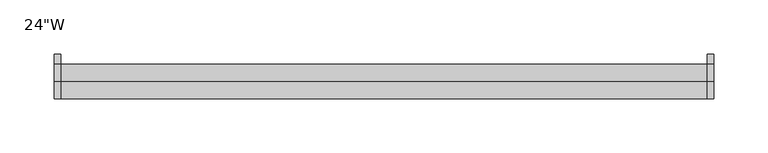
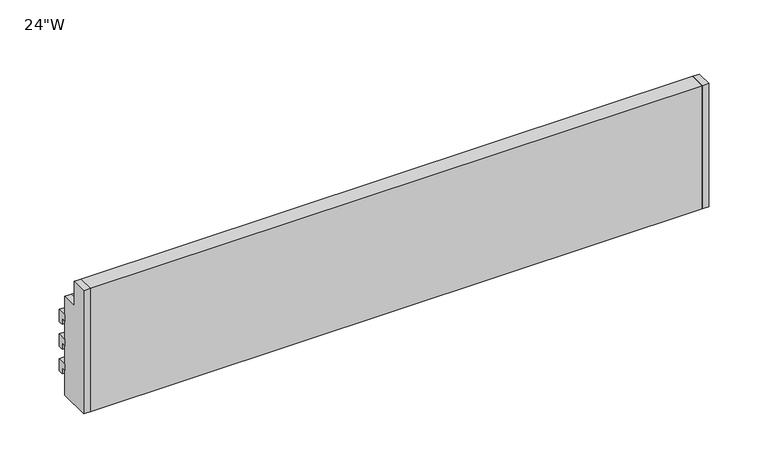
"""IFC4 building model written with IfcOpenShell, lengths in millimetres: furniture geometry."""

from ifc_helpers import new_model, si_unit, frame, origin, place, context, project, spatial, polyline, outline, extrude, source, transform, mapped, element, save


def furniture_c8dc60de(model_context):
    return source(origin(), model_context, "Body", "SweptSolid", [
        extrude(outline(polyline([(25.4, 742.95), (25.4, 730.25), (20.6375, 730.25), (20.6375, 736.6), (15.875, 736.6), (15.875, 742.95), (25.4, 742.95)])), frame((-304.8, 0.0, 0.0), z_axis=(1.0, 0.0, 0.0), x_axis=(0.0, 1.0, 0.0)), (0.0, 0.0, 1.0), 6.35),
        extrude(outline(polyline([(25.4, 717.55), (25.4, 704.85), (20.6375, 704.85), (20.6375, 711.2), (15.875, 711.2), (15.875, 717.55), (25.4, 717.55)])), frame((-304.8, 0.0, 0.0), z_axis=(1.0, 0.0, 0.0), x_axis=(0.0, 1.0, 0.0)), (0.0, 0.0, 1.0), 6.35),
        extrude(outline(polyline([(25.4, 692.15), (25.4, 679.45), (20.6375, 679.45), (20.6375, 685.8), (15.875, 685.8), (15.875, 692.15), (25.4, 692.15)])), frame((-304.8, 0.0, 0.0), z_axis=(1.0, 0.0, 0.0), x_axis=(0.0, 1.0, 0.0)), (0.0, 0.0, 1.0), 6.35),
        extrude(outline(polyline([(25.4, 742.95), (25.4, 730.25), (20.6375, 730.25), (20.6375, 736.6), (15.875, 736.6), (15.875, 742.95), (25.4, 742.95)])), frame((298.45, 0.0, 0.0), z_axis=(1.0, 0.0, 0.0), x_axis=(0.0, 1.0, 0.0)), (0.0, 0.0, 1.0), 6.35),
        extrude(outline(polyline([(25.4, 717.55), (25.4, 704.85), (20.6375, 704.85), (20.6375, 711.2), (15.875, 711.2), (15.875, 717.55), (25.4, 717.55)])), frame((298.45, 0.0, 0.0), z_axis=(1.0, 0.0, 0.0), x_axis=(0.0, 1.0, 0.0)), (0.0, 0.0, 1.0), 6.35),
        extrude(outline(polyline([(25.4, 692.15), (25.4, 679.45), (20.6375, 679.45), (20.6375, 685.8), (15.875, 685.8), (15.875, 692.15), (25.4, 692.15)])), frame((298.45, 0.0, 0.0), z_axis=(1.0, 0.0, 0.0), x_axis=(0.0, 1.0, 0.0)), (0.0, 0.0, 1.0), 6.35),
        extrude(outline(polyline([(0.0, 787.4), (0.0, 762.0), (15.875, 762.0), (15.875, 660.4), (-15.875, 660.4), (-15.875, 787.4), (0.0, 787.4)])), frame((-304.8, 0.0, 0.0), z_axis=(1.0, 0.0, 0.0), x_axis=(0.0, 1.0, 0.0)), (0.0, 0.0, 1.0), 6.35),
        extrude(outline(polyline([(0.0, 787.4), (0.0, 762.0), (15.875, 762.0), (15.875, 660.4), (-15.875, 660.4), (-15.875, 787.4), (0.0, 787.4)])), frame((298.45, 0.0, 0.0), z_axis=(1.0, 0.0, 0.0), x_axis=(0.0, 1.0, 0.0)), (0.0, 0.0, 1.0), 6.35),
        extrude(outline(polyline([(0.0, 787.4), (0.0, 762.0), (15.875, 762.0), (15.875, 660.4), (-15.875, 660.4), (-15.875, 787.4), (0.0, 787.4)])), frame((-298.45, 0.0, 0.0), z_axis=(1.0, 0.0, 0.0), x_axis=(0.0, 1.0, 0.0)), (0.0, 0.0, 1.0), 596.9),
    ])


if __name__ == "__main__":
    model = new_model("IFC4")
    model_context = context("Model", 3, world=origin())
    ifc_project = project(units=[si_unit("LENGTHUNIT", "METRE", prefix="MILLI")], contexts=[model_context])
    site = spatial("IfcSite", under=ifc_project)
    building = spatial("IfcBuilding", under=site)
    placement = place(None, origin())
    furniture_shape = furniture_c8dc60de(model_context)
    element("IfcFurniture", 1, ObjectType="HermanMiller_CoStruc_C1610_AdapterRail : 24\"W", at=placement, inside=building, context=model_context, shape_type="MappedRepresentation", body=[
        mapped(furniture_shape, transform((0.0, 0.0, 0.0), x_axis=(1.0, 0.0, 0.0), y_axis=(0.0, 1.0, 0.0), z_axis=(0.0, 0.0, 1.0))),
    ])
    save(model, "model.ifc")
